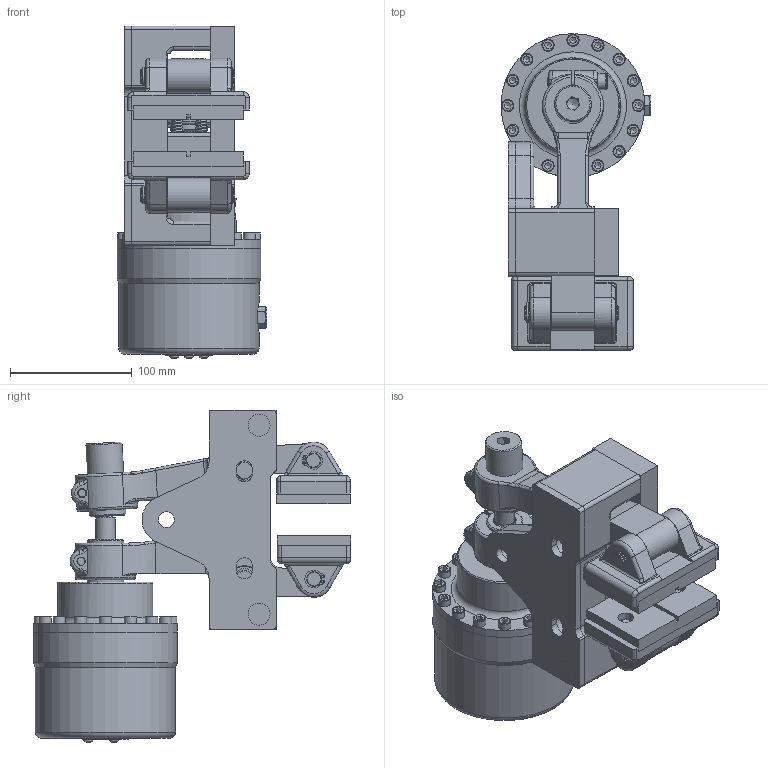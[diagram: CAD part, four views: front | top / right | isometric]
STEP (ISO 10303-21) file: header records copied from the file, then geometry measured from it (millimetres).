
FILE_DESCRIPTION(/* description */ ('','CAx-IF Rec.Pracs.---Representation and Presentation of Product Manufacturing Information (PMI)---4.0---2014-10-13'),/* implementation_level */ '2;1');
FILE_NAME(/* name */ 'X:\INVENTOR\DISEGNI\19_Pinze\STEP x Sito\OLEO-NEGATIVE\19_46_034_04 POH-N034_25,4.stp',/* time_stamp */ '2018-02-23T16:31:04+01:00',/* author */ ('stefano'),/* organization */ (''),/* preprocessor_version */ 'ST-DEVELOPER v17',/* originating_system */ 'Autodesk Inventor 2018',/* authorisation */ '');
FILE_SCHEMA (('AP242_MANAGED_MODEL_BASED_3D_ENGINEERING_MIM_LF { 1 0 10303 442 1 1 4 }'));
Length unit declared in the file: millimetre
Products named in the file (1): 19_46_034_04 POH-N034_25,4_Substitute_1
Bounding box: 123 x 260 x 272.3 mm (x, y, z)
Volume: 2211592.3 mm3; surface area: 346824.1 mm2
Topology: 1 solids, 1 shells, 1165 faces, 3227 edges, 2126 vertices
Faces by surface type: plane 602, cylinder 319, cone 85, torus 83, bspline 75, sphere 1
Full cylindrical faces by diameter (mm): 1.7 x18, 4 x2, 5 x2, 6 x4, 6.5 x6, 6.647 x1, 7.6 x3, 8 x3, 8.5 x2, 9.5 x2, 10 x19, 10.5 x1, 11.445 x2, 11.5 x4, 12 x17, 13 x8, 13.4 x6, 13.5 x2, 14 x12, 15 x1, 16 x8, 16.5 x4, 19 x1, 19.5 x12, 21 x3, 22 x1, 22.6 x1, 24 x1, 25 x1, 30 x2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
Entity records: 44038 total; most frequent: CARTESIAN_POINT 12821, ORIENTED_EDGE 6360, DIRECTION 6359, EDGE_CURVE 3180, AXIS2_PLACEMENT_3D 2439, VERTEX_POINT 2126, LINE 1481, VECTOR 1481
